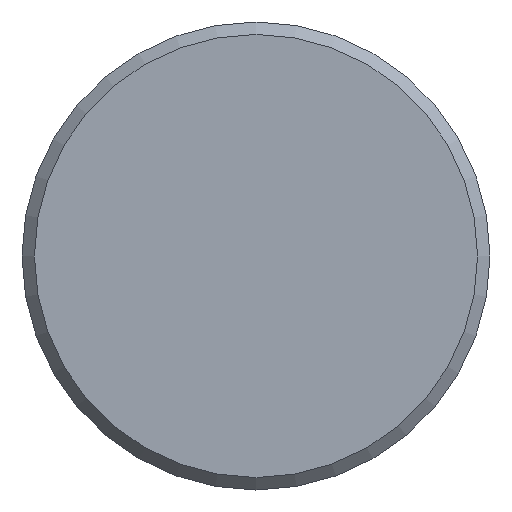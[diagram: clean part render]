
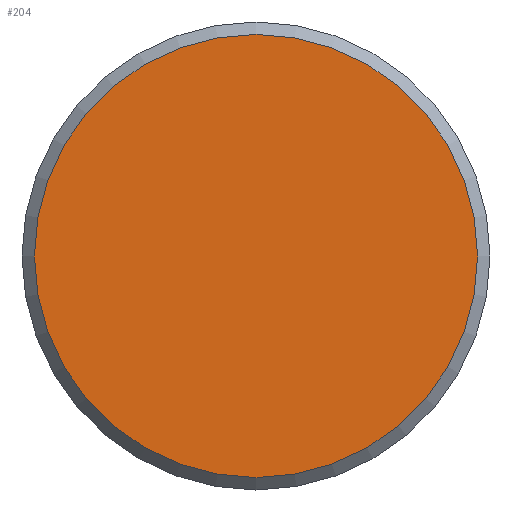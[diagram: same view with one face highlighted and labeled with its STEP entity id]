
A CAD part, left-side view. The second image highlights one B-rep face of the part: STEP entity #204.
In plain terms, the highlighted planar face has unit normal (-1, 0, 0).
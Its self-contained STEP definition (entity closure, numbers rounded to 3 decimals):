
#20=PLANE($,#238);
#51=FACE_OUTER_BOUND($,#79,.T.);
#79=EDGE_LOOP($,(#159));
#97=CIRCLE($,#234,2.261);
#113=VERTEX_POINT($,#347);
#129=EDGE_CURVE($,#113,#113,#97,.T.);
#159=ORIENTED_EDGE($,*,*,#129,.F.);
#204=ADVANCED_FACE($,(#51),#20,.T.);
#234=AXIS2_PLACEMENT_3D($,#348,#292,#293);
#238=AXIS2_PLACEMENT_3D($,#354,#300,#301);
#292=DIRECTION('center_axis',(1.,0.,0.));
#293=DIRECTION('ref_axis',(0.,-1.,0.));
#300=DIRECTION('center_axis',(-1.,0.,0.));
#301=DIRECTION('ref_axis',(0.,0.,1.));
#347=CARTESIAN_POINT('',(-14.627,10.955,0.));
#348=CARTESIAN_POINT('Origin',(-14.627,8.694,0.));
#354=CARTESIAN_POINT('Origin',(-14.627,9.888,0.));
